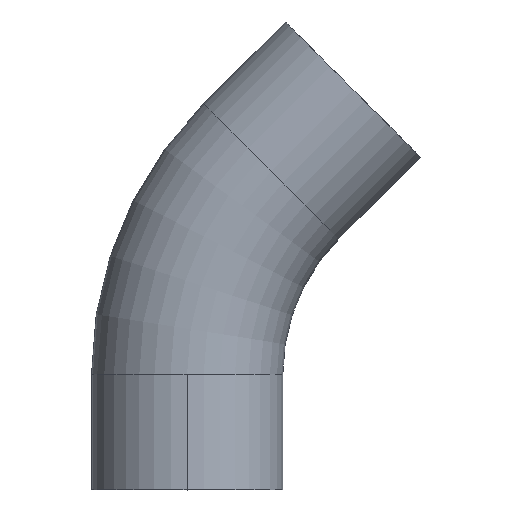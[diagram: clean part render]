
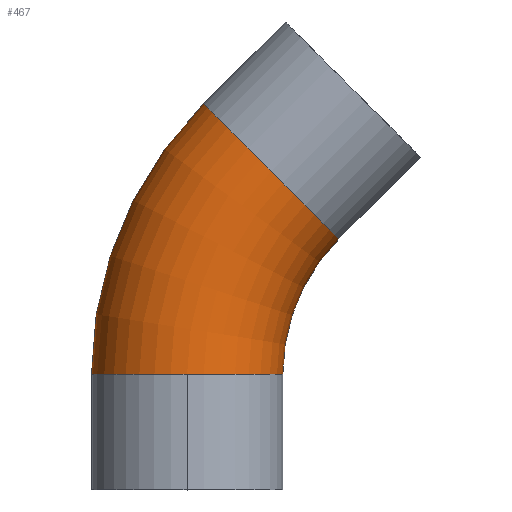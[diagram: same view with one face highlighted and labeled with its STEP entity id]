
A CAD part, top view. The second image highlights one B-rep face of the part: STEP entity #467.
In plain terms, the highlighted toroidal (fillet/blend) face has major radius 114.3 mm and minor radius 38.1 mm.
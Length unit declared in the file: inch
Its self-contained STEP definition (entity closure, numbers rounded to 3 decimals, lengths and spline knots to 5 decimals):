
#2 = VERTEX_POINT ( 'NONE', #108 ) ;
#42 = CARTESIAN_POINT ( 'NONE',  ( 0., 1.812, 0. ) ) ;
#61 = CIRCLE ( 'NONE', #471, 6. ) ;
#84 = DIRECTION ( 'NONE',  ( -1., 0., 0. ) ) ;
#87 = EDGE_CURVE ( 'NONE', #127, #326, #268, .T. ) ;
#88 = CARTESIAN_POINT ( 'NONE',  ( 0., 1.812, 1.5 ) ) ;
#90 = EDGE_CURVE ( 'NONE', #2, #127, #368, .T. ) ;
#94 = EDGE_CURVE ( 'NONE', #306, #2, #61, .T. ) ;
#97 = EDGE_CURVE ( 'NONE', #306, #220, #449, .T. ) ;
#102 = DIRECTION ( 'NONE',  ( 0., 0., 1. ) ) ;
#108 = CARTESIAN_POINT ( 'NONE',  ( -1.5, 1.812, 0. ) ) ;
#111 = CARTESIAN_POINT ( 'NONE',  ( 4.5, 1.812, 0. ) ) ;
#113 = CARTESIAN_POINT ( 'NONE',  ( 2.37868, 3.93332, 0. ) ) ;
#127 = VERTEX_POINT ( 'NONE', #88 ) ;
#142 = DIRECTION ( 'NONE',  ( 1., 0., 0. ) ) ;
#148 = DIRECTION ( 'NONE',  ( 0., 1., 0. ) ) ;
#160 = EDGE_CURVE ( 'NONE', #220, #326, #346, .T. ) ;
#165 = ORIENTED_EDGE ( 'NONE', *, *, #160, .F. ) ;
#166 = DIRECTION ( 'NONE',  ( 1., 0., 0. ) ) ;
#182 = EDGE_LOOP ( 'NONE', ( #392, #297, #209, #451, #165 ) ) ;
#185 = CARTESIAN_POINT ( 'NONE',  ( 1.31802, 4.99398, 0. ) ) ;
#193 = FACE_OUTER_BOUND ( 'NONE', #182, .T. ) ;
#209 = ORIENTED_EDGE ( 'NONE', *, *, #90, .T. ) ;
#220 = VERTEX_POINT ( 'NONE', #113 ) ;
#228 = CARTESIAN_POINT ( 'NONE',  ( 4.5, 1.812, 0. ) ) ;
#235 = DIRECTION ( 'NONE',  ( -0.707, 0.707, 0. ) ) ;
#268 = CIRCLE ( 'NONE', #491, 1.5 ) ;
#269 = CARTESIAN_POINT ( 'NONE',  ( 0.25736, 6.05464, 0. ) ) ;
#276 = DIRECTION ( 'NONE',  ( 1., 0., 0. ) ) ;
#297 = ORIENTED_EDGE ( 'NONE', *, *, #94, .T. ) ;
#306 = VERTEX_POINT ( 'NONE', #269 ) ;
#319 = DIRECTION ( 'NONE',  ( 0., 1., 0. ) ) ;
#320 = AXIS2_PLACEMENT_3D ( 'NONE', #404, #102, #166 ) ;
#326 = VERTEX_POINT ( 'NONE', #353 ) ;
#346 = CIRCLE ( 'NONE', #380, 3. ) ;
#353 = CARTESIAN_POINT ( 'NONE',  ( 1.5, 1.812, 0. ) ) ;
#368 = CIRCLE ( 'NONE', #482, 1.5 ) ;
#376 = DIRECTION ( 'NONE',  ( 0., 0., 1. ) ) ;
#380 = AXIS2_PLACEMENT_3D ( 'NONE', #111, #376, #142 ) ;
#385 = CARTESIAN_POINT ( 'NONE',  ( 0., 1.812, 0. ) ) ;
#392 = ORIENTED_EDGE ( 'NONE', *, *, #97, .F. ) ;
#404 = CARTESIAN_POINT ( 'NONE',  ( 4.5, 1.812, 0. ) ) ;
#411 = AXIS2_PLACEMENT_3D ( 'NONE', #185, #456, #235 ) ;
#420 = DIRECTION ( 'NONE',  ( -1., 0., 0. ) ) ;
#449 = CIRCLE ( 'NONE', #411, 1.5 ) ;
#451 = ORIENTED_EDGE ( 'NONE', *, *, #87, .T. ) ;
#456 = DIRECTION ( 'NONE',  ( 0.707, 0.707, 0. ) ) ;
#467 = ADVANCED_FACE ( 'NONE', ( #193 ), #490, .T. ) ;
#471 = AXIS2_PLACEMENT_3D ( 'NONE', #228, #493, #276 ) ;
#482 = AXIS2_PLACEMENT_3D ( 'NONE', #385, #148, #420 ) ;
#490 = TOROIDAL_SURFACE ( 'NONE', #320, 4.5, 1.5 ) ;
#491 = AXIS2_PLACEMENT_3D ( 'NONE', #42, #319, #84 ) ;
#493 = DIRECTION ( 'NONE',  ( 0., 0., 1. ) ) ;
